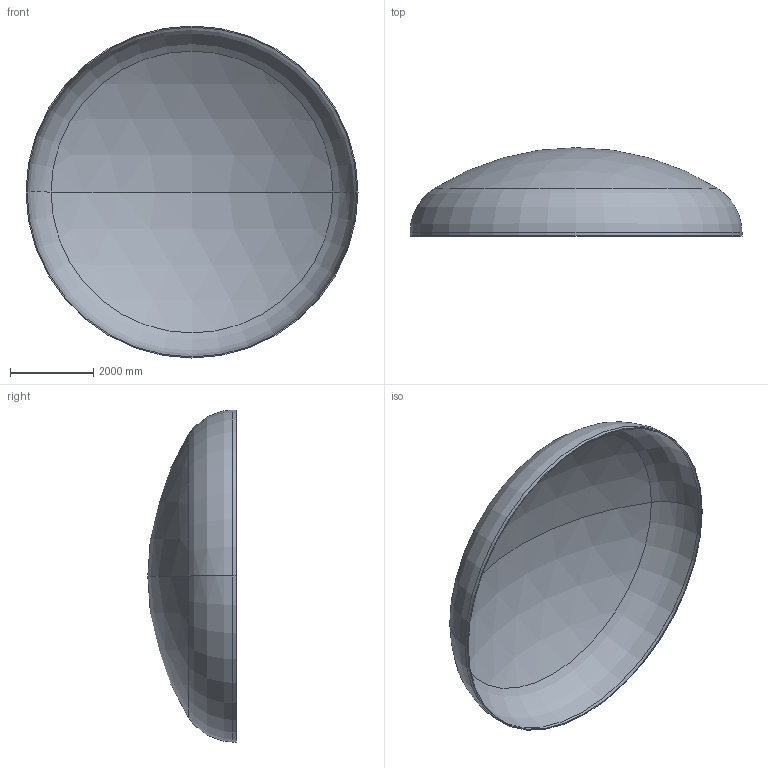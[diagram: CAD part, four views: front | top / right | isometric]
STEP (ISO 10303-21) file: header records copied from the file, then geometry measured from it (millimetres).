
FILE_DESCRIPTION (( 'STEP AP203' ), '1' );
FILE_NAME ('DIN 28013 Korbbogenform_-_Boden DIN 28013 - 8000 x 85 - I - s=26.step', '2016-07-04T10:59:51', ( '' ), ( '' ), 'SwSTEP 2.0', 'SolidWorks 2013', '' );
FILE_SCHEMA (( 'CONFIG_CONTROL_DESIGN' ));
Length unit declared in the file: millimetre
Products named in the file (1): DIN 28013 Korbbogenform_-_Boden DIN 28013 - 8000 x 85 - I - s=26
Bounding box: 8000 x 2129.29 x 8000 mm (x, y, z)
Volume: 1857192302.8 mm3; surface area: 143513631.8 mm2
Topology: 1 solids, 1 shells, 13 faces, 24 edges, 14 vertices
Faces by surface type: torus 4, cylinder 4, sphere 4, plane 1
Entity records: 407 total; most frequent: DIRECTION 72, CARTESIAN_POINT 52, ORIENTED_EDGE 48, AXIS2_PLACEMENT_3D 34, EDGE_CURVE 24, CIRCLE 20, VERTEX_POINT 14, EDGE_LOOP 14
